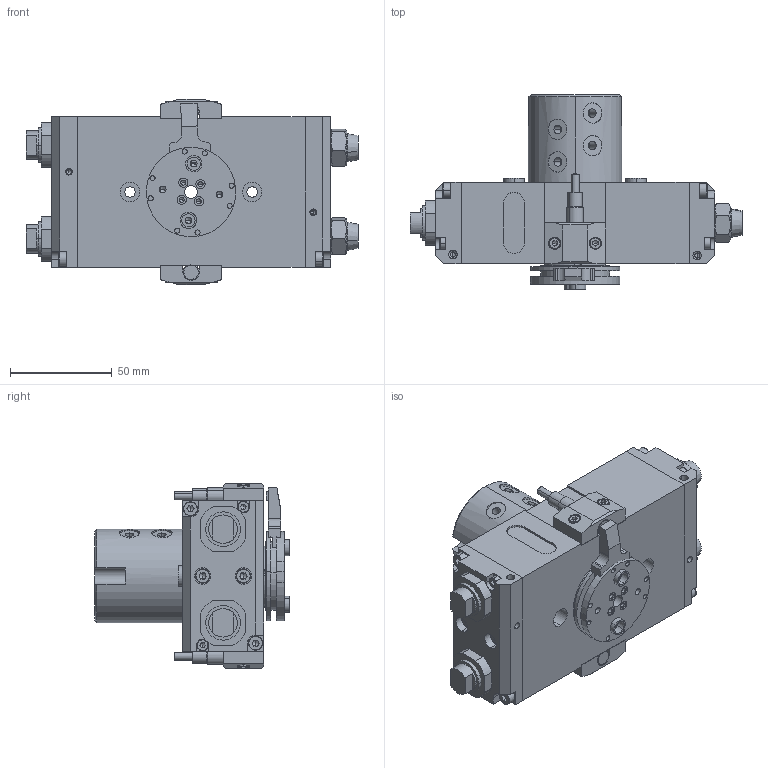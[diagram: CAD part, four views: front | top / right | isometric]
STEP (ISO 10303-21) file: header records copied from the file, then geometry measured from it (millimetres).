
FILE_DESCRIPTION (( 'STEP AP214' ), '1' );
FILE_NAME ('PFS 25E-4.STEP', '2016-01-05T04:28:19', ( 'Registered User' ), ( 'Microsoft Corporation' ), 'SwSTEP 2.0', 'SolidWorks 2015', '' );
FILE_SCHEMA (( 'AUTOMOTIVE_DESIGN' ));
Length unit declared in the file: millimetre
Products named in the file (2): PFS 25E-4
Bounding box: 163.1 x 95.5 x 91 mm (x, y, z)
Volume: 429225.6 mm3; surface area: 157593.4 mm2
Topology: 40 solids, 40 shells, 1564 faces, 3790 edges, 2341 vertices
Faces by surface type: cylinder 668, plane 635, cone 197, bspline 64
Entity records: 66507 total; most frequent: CARTESIAN_POINT 12359, DIRECTION 7861, ORIENTED_EDGE 7372, EDGE_CURVE 3686, AXIS2_PLACEMENT_3D 3025, VERTEX_POINT 2341, EDGE_LOOP 1857, VECTOR 1811
